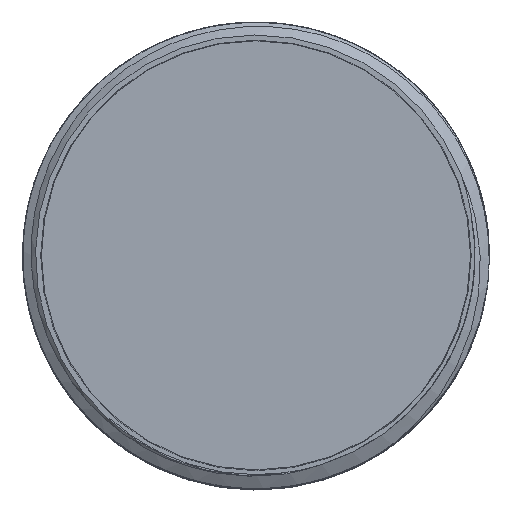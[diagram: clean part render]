
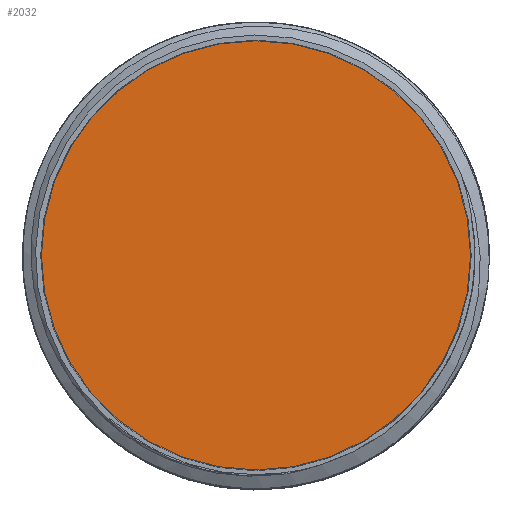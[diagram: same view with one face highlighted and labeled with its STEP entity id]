
A CAD part, top view. The second image highlights one B-rep face of the part: STEP entity #2032.
In plain terms, the highlighted planar face has unit normal (0, 0, 1).
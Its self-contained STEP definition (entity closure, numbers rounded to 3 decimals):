
#65=PLANE('',#2168);
#113=FACE_OUTER_BOUND('',#229,.T.);
#229=EDGE_LOOP('',(#1424));
#314=CIRCLE('',#2166,8.224);
#808=VERTEX_POINT('',#21836);
#1058=EDGE_CURVE('',#808,#808,#314,.T.);
#1424=ORIENTED_EDGE('',*,*,#1058,.T.);
#2032=ADVANCED_FACE('',(#113),#65,.T.);
#2166=AXIS2_PLACEMENT_3D('',#21837,#2362,#2363);
#2168=AXIS2_PLACEMENT_3D('',#21841,#2367,#2368);
#2362=DIRECTION('center_axis',(0.,0.,1.));
#2363=DIRECTION('ref_axis',(-1.,0.,0.));
#2367=DIRECTION('center_axis',(0.,0.,1.));
#2368=DIRECTION('ref_axis',(-1.,0.,0.));
#21836=CARTESIAN_POINT('',(8.224,50.,34.1));
#21837=CARTESIAN_POINT('Origin',(0.,50.,34.1));
#21841=CARTESIAN_POINT('Origin',(1.63,59.188,34.1));
